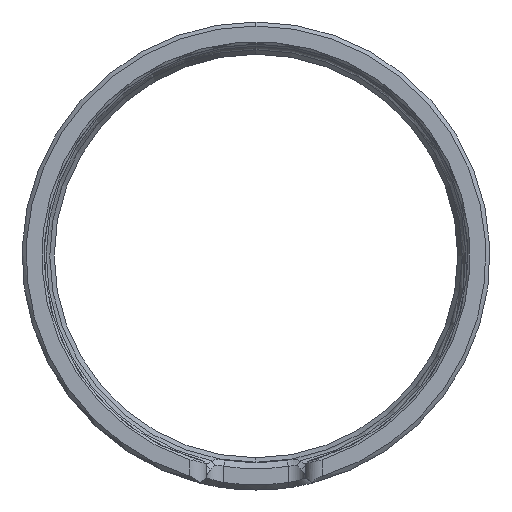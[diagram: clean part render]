
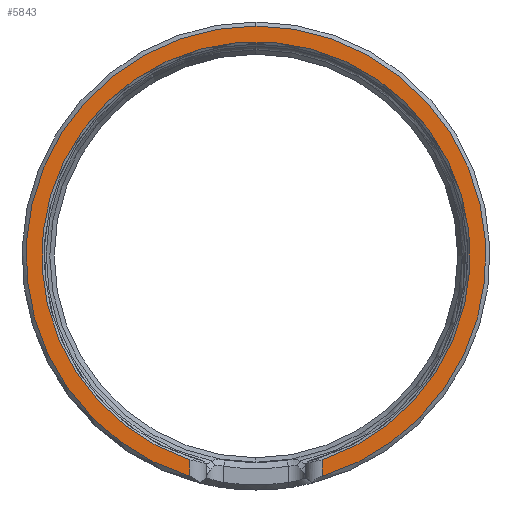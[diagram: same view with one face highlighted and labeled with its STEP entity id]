
A CAD part, left-side view. The second image highlights one B-rep face of the part: STEP entity #5843.
In plain terms, the highlighted planar face has unit normal (-1, 0, 0).
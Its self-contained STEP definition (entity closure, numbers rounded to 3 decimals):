
#41 = ORIENTED_EDGE ( 'NONE', *, *, #3587, .T. ) ;
#190 = VERTEX_POINT ( 'NONE', #873 ) ;
#690 = FACE_OUTER_BOUND ( 'NONE', #5241, .T. ) ;
#726 = PLANE ( 'NONE',  #6662 ) ;
#873 = CARTESIAN_POINT ( 'NONE',  ( -150., -8.2, -25.252 ) ) ;
#963 = VECTOR ( 'NONE', #4724, 1000. ) ;
#1362 = DIRECTION ( 'NONE',  ( 0., 0., -1. ) ) ;
#1443 = EDGE_CURVE ( 'NONE', #190, #6470, #6397, .T. ) ;
#1445 = EDGE_CURVE ( 'NONE', #6654, #190, #6021, .T. ) ;
#1596 = DIRECTION ( 'NONE',  ( 0., 0., 1. ) ) ;
#1736 = CARTESIAN_POINT ( 'NONE',  ( -150., -8.2, -29. ) ) ;
#1749 = EDGE_CURVE ( 'NONE', #5036, #6470, #5396, .T. ) ;
#1821 = CARTESIAN_POINT ( 'NONE',  ( -150., 0., 0. ) ) ;
#1896 = CARTESIAN_POINT ( 'NONE',  ( -150., 0., 0. ) ) ;
#2488 = DIRECTION ( 'NONE',  ( 0., 0., 1. ) ) ;
#2557 = CARTESIAN_POINT ( 'NONE',  ( -150., 8.2, -29. ) ) ;
#2704 = CARTESIAN_POINT ( 'NONE',  ( -150., 0., 28.5 ) ) ;
#2785 = AXIS2_PLACEMENT_3D ( 'NONE', #4060, #5694, #2488 ) ;
#3587 = EDGE_CURVE ( 'NONE', #6654, #4153, #5968, .T. ) ;
#3614 = EDGE_CURVE ( 'NONE', #4153, #5036, #6651, .T. ) ;
#3847 = DIRECTION ( 'NONE',  ( 0., 0., 1. ) ) ;
#3983 = ORIENTED_EDGE ( 'NONE', *, *, #1445, .F. ) ;
#3994 = DIRECTION ( 'NONE',  ( -1., 0., 0. ) ) ;
#4060 = CARTESIAN_POINT ( 'NONE',  ( -150., 0., 0. ) ) ;
#4153 = VERTEX_POINT ( 'NONE', #2704 ) ;
#4724 = DIRECTION ( 'NONE',  ( 0., 0., 1. ) ) ;
#4940 = CARTESIAN_POINT ( 'NONE',  ( -150., -8.2, -27.295 ) ) ;
#4970 = ORIENTED_EDGE ( 'NONE', *, *, #3614, .T. ) ;
#5036 = VERTEX_POINT ( 'NONE', #5344 ) ;
#5241 = EDGE_LOOP ( 'NONE', ( #3983, #41, #4970, #5583, #6396 ) ) ;
#5344 = CARTESIAN_POINT ( 'NONE',  ( -150., 8.2, -27.295 ) ) ;
#5396 = LINE ( 'NONE', #2557, #963 ) ;
#5508 = AXIS2_PLACEMENT_3D ( 'NONE', #1821, #3994, #6163 ) ;
#5516 = DIRECTION ( 'NONE',  ( -1., 0., 0. ) ) ;
#5583 = ORIENTED_EDGE ( 'NONE', *, *, #1749, .T. ) ;
#5694 = DIRECTION ( 'NONE',  ( -1., 0., 0. ) ) ;
#5843 = ADVANCED_FACE ( 'NONE', ( #690 ), #726, .T. ) ;
#5968 = CIRCLE ( 'NONE', #5508, 28.5 ) ;
#6021 = LINE ( 'NONE', #1736, #6755 ) ;
#6163 = DIRECTION ( 'NONE',  ( 0., 0., 1. ) ) ;
#6232 = DIRECTION ( 'NONE',  ( -1., 0., 0. ) ) ;
#6396 = ORIENTED_EDGE ( 'NONE', *, *, #1443, .F. ) ;
#6397 = CIRCLE ( 'NONE', #6634, 26.55 ) ;
#6470 = VERTEX_POINT ( 'NONE', #6950 ) ;
#6476 = CARTESIAN_POINT ( 'NONE',  ( -150., 0., 0. ) ) ;
#6634 = AXIS2_PLACEMENT_3D ( 'NONE', #6476, #5516, #3847 ) ;
#6651 = CIRCLE ( 'NONE', #2785, 28.5 ) ;
#6654 = VERTEX_POINT ( 'NONE', #4940 ) ;
#6662 = AXIS2_PLACEMENT_3D ( 'NONE', #1896, #6232, #1362 ) ;
#6755 = VECTOR ( 'NONE', #1596, 1000. ) ;
#6950 = CARTESIAN_POINT ( 'NONE',  ( -150., 8.2, -25.252 ) ) ;
